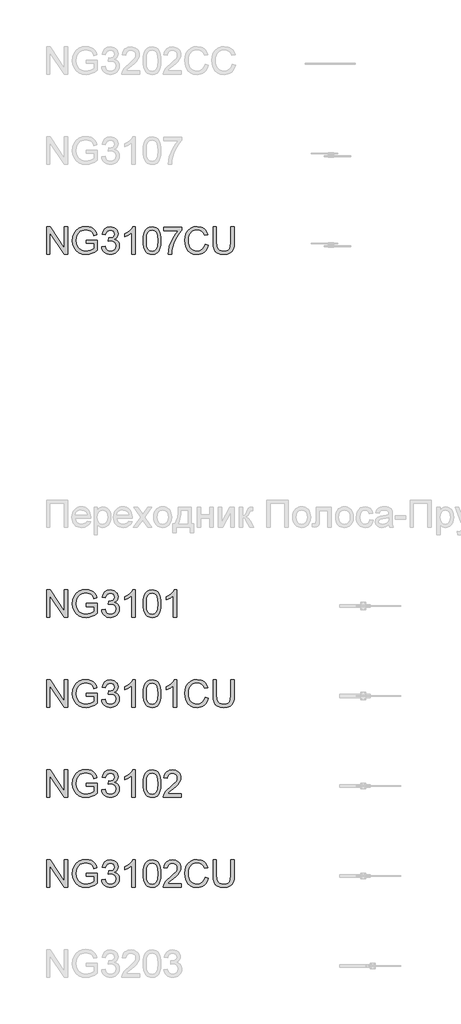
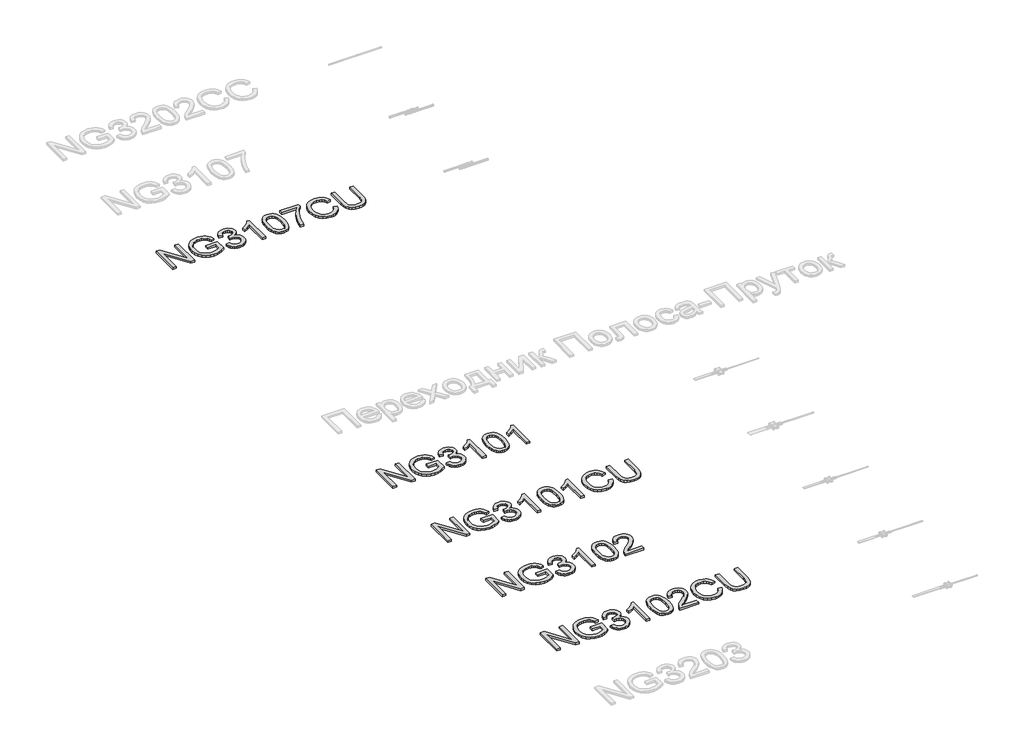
# One storey, part 108 of 124: 5 proxies.
"""IFC4 building model written with IfcOpenShell, lengths in millimetres."""

from ifc_helpers import new_model, si_unit, origin, origin_with_axes, place, context, project, spatial, polyline, outline, extrude, element, save

model = new_model("IFC4")

# Units and contexts
model_context = context("Model", 3, world=origin())
ifc_project = project(units=[si_unit("LENGTHUNIT", "METRE", prefix="MILLI")], contexts=[model_context])

# Site, building, storey
site = spatial("IfcSite", under=ifc_project)
building = spatial("IfcBuilding", under=site)
storey = spatial("IfcBuildingStorey", under=building, Name="Этаж 01", Elevation=0.0)

# Proxies
placement = place(None, origin())
element("IfcBuildingElementProxy", 1, Name="300", ObjectType="300", at=placement, inside=storey, context=model_context, shape_type="SweptSolid", body=[
    extrude(outline(polyline([(49699.8220677, -28554.4308483), (49699.8220677, -28253.0619179), (49740.1419344, -28253.0619179), (49897.5954283, -28491.8173327), (49897.5954283, -28253.0619179), (49935.2665446, -28253.0619179), (49935.2665446, -28554.4308483), (49894.9466779, -28554.4308483), (49737.493184, -28315.601857), (49737.493184, -28554.4308483), (49699.8220677, -28554.4308483)])), origin_with_axes(), (0.0, 0.0, 1.0), 20.0),
    extrude(outline(polyline([(50142.4576843, -28436.7086099), (50142.4576843, -28399.0374936), (50264.8888123, -28399.0374936), (50264.8888123, -28511.6829605), (50235.1363559, -28532.3763227), (50204.4458005, -28547.2203612), (50172.8907223, -28556.1598937), (50140.5446979, -28559.1397379), (50098.2842537, -28554.4032572), (50060.0889056, -28540.1938151), (50028.3590835, -28517.0080524), (50005.4952175, -28485.3426096), (49991.6720515, -28447.3587936), (49987.0643295, -28405.2179111), (49991.6536574, -28362.7735259), (50005.4216411, -28323.2905907), (50027.7980634, -28290.1720141), (50058.2127074, -28266.8207045), (50095.2584243, -28252.9699474), (50137.5280656, -28248.3530283), (50168.5589118, -28251.0293698), (50196.4627612, -28259.0583944), (50219.9612236, -28271.8606878), (50237.7759092, -28288.856836), (50250.9552817, -28310.8653764), (50260.5478047, -28338.7048463), (50225.8197444, -28348.4905074), (50218.0666313, -28328.6340767), (50208.6396552, -28313.6520825), (50196.1684556, -28302.3581052), (50179.282672, -28293.5657255), (50159.1503298, -28287.9095399), (50136.9394544, -28286.0241446), (50110.9393944, -28288.0566927), (50088.7101248, -28294.1543367), (50070.3344191, -28303.5537217), (50055.8950508, -28315.4914924), (50036.5076697, -28344.5173819), (50027.6785018, -28372.9546601), (50024.7354458, -28403.6728067), (50028.27631, -28439.6976511), (50038.8989026, -28469.3397428), (50056.2813269, -28492.3875498), (50080.1016861, -28508.6295399), (50107.9779443, -28518.2588511), (50137.5280656, -28521.4686215), (50163.6200961, -28519.0497974), (50189.0683331, -28511.7933251), (50211.1688439, -28501.7961319), (50227.217696, -28491.1551451), (50227.217696, -28436.7086099), (50142.4576843, -28436.7086099)])), origin_with_axes(), (0.0, 0.0, 1.0), 20.0),
    extrude(outline(polyline([(50311.9777077, -28474.3797262), (50349.648824, -28469.6708366), (50358.0825187, -28493.344043), (50370.4341567, -28509.3285157), (50387.3107432, -28518.4335951), (50409.3192836, -28521.4686215), (50435.1445997, -28517.2931609), (50455.0838038, -28504.766779), (50467.8309149, -28486.0783736), (50472.079952, -28463.4168427), (50467.8677031, -28441.904943), (50455.2309566, -28424.4581394), (50436.1010928, -28412.8974477), (50412.4094924, -28409.0438838), (50385.9955651, -28413.1641622), (50390.1894198, -28375.4930459), (50396.2226846, -28375.9345043), (50418.792245, -28373.2305716), (50438.9705724, -28365.1187736), (50453.2076056, -28351.3967752), (50457.9532834, -28331.8622412), (50454.5135867, -28315.59266), (50444.1944967, -28302.3948934), (50428.4491473, -28293.648499), (50408.7306724, -28290.7330342), (50388.9754093, -28293.6760901), (50372.8253897, -28302.505258), (50361.0347717, -28317.2205378), (50354.3577135, -28337.8219296), (50316.6865972, -28333.11304), (50327.7782394, -28299.2862906), (50347.5151084, -28274.0311916), (50374.5176468, -28258.3042363), (50407.4062972, -28253.0619179), (50431.0887007, -28255.6462889), (50452.8397236, -28263.3994019), (50471.1786411, -28275.6314783), (50484.624728, -28291.6527392), (50492.8744817, -28310.1112183), (50495.6243997, -28329.6549493), (50493.0124375, -28347.865108), (50485.176551, -28364.3830096), (50472.2271048, -28378.4544959), (50454.2744634, -28389.3254089), (50477.8556993, -28398.8535526), (50495.3300941, -28415.0771485), (50506.1458247, -28437.1132801), (50509.7510683, -28464.0790303), (50507.9484465, -28483.1904999), (50502.5405812, -28500.7936534), (50493.5274723, -28516.8884907), (50480.9091199, -28531.4750118), (50465.536251, -28543.5783295), (50448.2595928, -28552.2235563), (50429.0791453, -28557.4106925), (50407.9949084, -28559.1397379), (50388.9386211, -28557.6636113), (50371.5745909, -28553.2352318), (50355.9028179, -28545.8545993), (50341.9233021, -28535.5217138), (50330.201662, -28522.8435805), (50321.3035162, -28508.4272048), (50315.2288648, -28492.2725867), (50311.9777077, -28474.3797262)])), origin_with_axes(), (0.0, 0.0, 1.0), 20.0),
    extrude(outline(polyline([(50683.9799812, -28554.4308483), (50646.3088649, -28554.4308483), (50646.3088649, -28319.5749826), (50610.6243114, -28344.9956285), (50570.9666323, -28364.0151276), (50570.9666323, -28328.4041505), (50600.5535417, -28312.3093132), (50626.1857197, -28293.1610553), (50646.3916383, -28272.7987869), (50659.6997695, -28253.0619179), (50683.9799812, -28253.0619179), (50683.9799812, -28554.4308483)])), origin_with_axes(), (0.0, 0.0, 1.0), 20.0),
    extrude(outline(polyline([(50773.4488824, -28406.1744043), (50776.2171944, -28357.9358776), (50784.5221305, -28319.464618), (50798.2809171, -28290.1720141), (50817.4107808, -28269.4694549), (50842.0496775, -28257.1638021), (50872.3355627, -28253.0619179), (50895.5489166, -28255.489939), (50916.3342493, -28262.7740025), (50933.7166736, -28274.6289998), (50946.7213021, -28290.7698224), (50956.5437514, -28311.0585144), (50964.3796379, -28335.3571202), (50969.5115917, -28366.2132225), (50971.222243, -28406.1744043), (50968.4815222, -28454.1370194), (50960.2593596, -28492.5163085), (50946.5833464, -28521.8365035), (50927.4810738, -28542.6218363), (50902.7869949, -28555.0102625), (50872.3355627, -28559.1397379), (50851.5870182, -28557.3463131), (50833.1929184, -28551.9660389), (50817.1532634, -28542.9989153), (50803.4680532, -28530.4449422), (50790.334666, -28507.7512217), (50780.9536751, -28479.4748918), (50775.3250806, -28445.6159527), (50773.4488824, -28406.1744043)]), holes=[polyline([(50811.1199987, -28406.1008279), (50815.5345827, -28465.3574202), (50821.0528126, -28485.6254189), (50828.7783345, -28499.6532192), (50848.4968094, -28516.014771), (50872.3355627, -28521.4686215), (50896.174316, -28515.9963769), (50915.892791, -28499.5796428), (50923.6183128, -28485.5288499), (50929.1365428, -28465.2654497), (50933.5511267, -28406.1008279), (50929.2836956, -28348.1778077), (50923.9494066, -28327.9764877), (50916.4814021, -28313.6152943), (50896.7997154, -28296.4535992), (50871.8941043, -28290.7330342), (50848.3128684, -28295.7730175), (50829.3669457, -28310.8929675), (50821.3839064, -28326.5279523), (50815.6817355, -28347.6075906), (50811.1199987, -28406.1008279)])]), origin_with_axes(), (0.0, 0.0, 1.0), 20.0),
    extrude(outline(polyline([(51145.4511559, -28554.4308483), (51107.7800396, -28554.4308483), (51107.7800396, -28319.5749826), (51072.0954861, -28344.9956285), (51032.437807, -28364.0151276), (51032.437807, -28328.4041505), (51062.0247165, -28312.3093132), (51087.6568945, -28293.1610553), (51107.8628131, -28272.7987869), (51121.1709443, -28253.0619179), (51145.4511559, -28253.0619179), (51145.4511559, -28554.4308483)])), origin_with_axes(), (0.0, 0.0, 1.0), 20.0),
])
element("IfcBuildingElementProxy", 2, Name="300", ObjectType="300", at=placement, inside=storey, context=model_context, shape_type="SweptSolid", body=[
    extrude(outline(polyline([(49699.8220677, -29554.4308483), (49699.8220677, -29253.0619179), (49740.1419344, -29253.0619179), (49897.5954283, -29491.8173327), (49897.5954283, -29253.0619179), (49935.2665446, -29253.0619179), (49935.2665446, -29554.4308483), (49894.9466779, -29554.4308483), (49737.493184, -29315.601857), (49737.493184, -29554.4308483), (49699.8220677, -29554.4308483)])), origin_with_axes(), (0.0, 0.0, 1.0), 20.0),
    extrude(outline(polyline([(50142.4576843, -29436.7086099), (50142.4576843, -29399.0374936), (50264.8888123, -29399.0374936), (50264.8888123, -29511.6829605), (50235.1363559, -29532.3763227), (50204.4458005, -29547.2203612), (50172.8907223, -29556.1598937), (50140.5446979, -29559.1397379), (50098.2842537, -29554.4032572), (50060.0889056, -29540.1938151), (50028.3590835, -29517.0080524), (50005.4952175, -29485.3426096), (49991.6720515, -29447.3587936), (49987.0643295, -29405.2179111), (49991.6536574, -29362.7735259), (50005.4216411, -29323.2905907), (50027.7980634, -29290.1720141), (50058.2127074, -29266.8207045), (50095.2584243, -29252.9699474), (50137.5280656, -29248.3530283), (50168.5589118, -29251.0293698), (50196.4627612, -29259.0583944), (50219.9612236, -29271.8606878), (50237.7759092, -29288.856836), (50250.9552817, -29310.8653764), (50260.5478047, -29338.7048463), (50225.8197444, -29348.4905074), (50218.0666313, -29328.6340767), (50208.6396552, -29313.6520825), (50196.1684556, -29302.3581052), (50179.282672, -29293.5657255), (50159.1503298, -29287.9095399), (50136.9394544, -29286.0241446), (50110.9393944, -29288.0566927), (50088.7101248, -29294.1543367), (50070.3344191, -29303.5537217), (50055.8950508, -29315.4914924), (50036.5076697, -29344.5173819), (50027.6785018, -29372.9546601), (50024.7354458, -29403.6728067), (50028.27631, -29439.6976511), (50038.8989026, -29469.3397428), (50056.2813269, -29492.3875498), (50080.1016861, -29508.6295399), (50107.9779443, -29518.2588511), (50137.5280656, -29521.4686215), (50163.6200961, -29519.0497974), (50189.0683331, -29511.7933251), (50211.1688439, -29501.7961319), (50227.217696, -29491.1551451), (50227.217696, -29436.7086099), (50142.4576843, -29436.7086099)])), origin_with_axes(), (0.0, 0.0, 1.0), 20.0),
    extrude(outline(polyline([(50311.9777077, -29474.3797262), (50349.648824, -29469.6708366), (50358.0825187, -29493.344043), (50370.4341567, -29509.3285157), (50387.3107432, -29518.4335951), (50409.3192836, -29521.4686215), (50435.1445997, -29517.2931609), (50455.0838038, -29504.766779), (50467.8309149, -29486.0783736), (50472.079952, -29463.4168427), (50467.8677031, -29441.904943), (50455.2309566, -29424.4581394), (50436.1010928, -29412.8974477), (50412.4094924, -29409.0438838), (50385.9955651, -29413.1641622), (50390.1894198, -29375.4930459), (50396.2226846, -29375.9345043), (50418.792245, -29373.2305716), (50438.9705724, -29365.1187736), (50453.2076056, -29351.3967752), (50457.9532834, -29331.8622412), (50454.5135867, -29315.59266), (50444.1944967, -29302.3948934), (50428.4491473, -29293.648499), (50408.7306724, -29290.7330342), (50388.9754093, -29293.6760901), (50372.8253897, -29302.505258), (50361.0347717, -29317.2205378), (50354.3577135, -29337.8219296), (50316.6865972, -29333.11304), (50327.7782394, -29299.2862906), (50347.5151084, -29274.0311916), (50374.5176468, -29258.3042363), (50407.4062972, -29253.0619179), (50431.0887007, -29255.6462889), (50452.8397236, -29263.3994019), (50471.1786411, -29275.6314783), (50484.624728, -29291.6527392), (50492.8744817, -29310.1112183), (50495.6243997, -29329.6549493), (50493.0124375, -29347.865108), (50485.176551, -29364.3830096), (50472.2271048, -29378.4544959), (50454.2744634, -29389.3254089), (50477.8556993, -29398.8535526), (50495.3300941, -29415.0771485), (50506.1458247, -29437.1132801), (50509.7510683, -29464.0790303), (50507.9484465, -29483.1904999), (50502.5405812, -29500.7936534), (50493.5274723, -29516.8884907), (50480.9091199, -29531.4750118), (50465.536251, -29543.5783295), (50448.2595928, -29552.2235563), (50429.0791453, -29557.4106925), (50407.9949084, -29559.1397379), (50388.9386211, -29557.6636113), (50371.5745909, -29553.2352318), (50355.9028179, -29545.8545993), (50341.9233021, -29535.5217138), (50330.201662, -29522.8435805), (50321.3035162, -29508.4272048), (50315.2288648, -29492.2725867), (50311.9777077, -29474.3797262)])), origin_with_axes(), (0.0, 0.0, 1.0), 20.0),
    extrude(outline(polyline([(50683.9799812, -29554.4308483), (50646.3088649, -29554.4308483), (50646.3088649, -29319.5749826), (50610.6243114, -29344.9956285), (50570.9666323, -29364.0151276), (50570.9666323, -29328.4041505), (50600.5535417, -29312.3093132), (50626.1857197, -29293.1610553), (50646.3916383, -29272.7987869), (50659.6997695, -29253.0619179), (50683.9799812, -29253.0619179), (50683.9799812, -29554.4308483)])), origin_with_axes(), (0.0, 0.0, 1.0), 20.0),
    extrude(outline(polyline([(50773.4488824, -29406.1744043), (50776.2171944, -29357.9358776), (50784.5221305, -29319.464618), (50798.2809171, -29290.1720141), (50817.4107808, -29269.4694549), (50842.0496775, -29257.1638021), (50872.3355627, -29253.0619179), (50895.5489166, -29255.489939), (50916.3342493, -29262.7740025), (50933.7166736, -29274.6289998), (50946.7213021, -29290.7698224), (50956.5437514, -29311.0585144), (50964.3796379, -29335.3571202), (50969.5115917, -29366.2132225), (50971.222243, -29406.1744043), (50968.4815222, -29454.1370194), (50960.2593596, -29492.5163085), (50946.5833464, -29521.8365035), (50927.4810738, -29542.6218363), (50902.7869949, -29555.0102625), (50872.3355627, -29559.1397379), (50851.5870182, -29557.3463131), (50833.1929184, -29551.9660389), (50817.1532634, -29542.9989153), (50803.4680532, -29530.4449422), (50790.334666, -29507.7512217), (50780.9536751, -29479.4748918), (50775.3250806, -29445.6159527), (50773.4488824, -29406.1744043)]), holes=[polyline([(50811.1199987, -29406.1008279), (50815.5345827, -29465.3574202), (50821.0528126, -29485.6254189), (50828.7783345, -29499.6532192), (50848.4968094, -29516.014771), (50872.3355627, -29521.4686215), (50896.174316, -29515.9963769), (50915.892791, -29499.5796428), (50923.6183128, -29485.5288499), (50929.1365428, -29465.2654497), (50933.5511267, -29406.1008279), (50929.2836956, -29348.1778077), (50923.9494066, -29327.9764877), (50916.4814021, -29313.6152943), (50896.7997154, -29296.4535992), (50871.8941043, -29290.7330342), (50848.3128684, -29295.7730175), (50829.3669457, -29310.8929675), (50821.3839064, -29326.5279523), (50815.6817355, -29347.6075906), (50811.1199987, -29406.1008279)])]), origin_with_axes(), (0.0, 0.0, 1.0), 20.0),
    extrude(outline(polyline([(51145.4511559, -29554.4308483), (51107.7800396, -29554.4308483), (51107.7800396, -29319.5749826), (51072.0954861, -29344.9956285), (51032.437807, -29364.0151276), (51032.437807, -29328.4041505), (51062.0247165, -29312.3093132), (51087.6568945, -29293.1610553), (51107.8628131, -29272.7987869), (51121.1709443, -29253.0619179), (51145.4511559, -29253.0619179), (51145.4511559, -29554.4308483)])), origin_with_axes(), (0.0, 0.0, 1.0), 20.0),
    extrude(outline(polyline([(51460.946755, -29447.3036113), (51498.6178713, -29457.015696), (51491.1636624, -29480.4428813), (51481.235447, -29500.9132151), (51468.8332253, -29518.4266973), (51453.9569971, -29532.983328), (51436.9424548, -29544.4267573), (51418.1252908, -29552.6006354), (51397.5055049, -29557.5049622), (51375.0830973, -29559.1397379), (51331.3879134, -29554.191725), (51296.6874442, -29539.3476865), (51270.0895759, -29515.1226571), (51250.7021948, -29482.0316717), (51238.8655916, -29443.1281507), (51234.9200572, -29401.4655147), (51239.3806264, -29357.5220104), (51252.7623339, -29319.5749826), (51274.3662041, -29288.8292448), (51303.4932611, -29266.4896107), (51338.0373804, -29252.8871739), (51375.8924377, -29248.3530283), (51417.1963887, -29254.2207462), (51435.1651249, -29261.5553934), (51451.3450349, -29271.8238996), (51465.4694043, -29284.7549518), (51477.2715185, -29300.0772368), (51493.9089818, -29337.895506), (51456.2378655, -29346.8718266), (51443.1780546, -29319.4002386), (51425.3357779, -29300.5554834), (51402.490306, -29289.6569793), (51374.4209097, -29286.0241446), (51342.0656883, -29290.0524525), (51315.4862141, -29302.137376), (51295.3170837, -29321.0097224), (51282.1928935, -29345.4002987), (51274.9916035, -29372.9730542), (51272.5911735, -29401.3919383), (51275.4330619, -29436.1935751), (51283.9587271, -29466.2863223), (51298.4900659, -29490.5205487), (51319.3489751, -29507.7466231), (51344.3557537, -29518.0381219), (51371.330701, -29521.4686215), (51402.7754145, -29516.7965202), (51428.9778096, -29502.7802162), (51448.7606639, -29479.5668623), (51460.946755, -29447.3036113)])), origin_with_axes(), (0.0, 0.0, 1.0), 20.0),
    extrude(outline(polyline([(51748.1890168, -29253.0619179), (51785.8601331, -29253.0619179), (51785.8601331, -29426.9229488), (51783.3033533, -29467.6382886), (51775.6330137, -29498.9910316), (51761.30401, -29523.1792728), (51738.7712378, -29542.4011071), (51707.9795148, -29554.9550802), (51668.8736587, -29559.1397379), (51630.6231282, -29555.4977061), (51600.0429374, -29544.5716108), (51577.1238891, -29526.7385311), (51561.8567863, -29502.375546), (51553.2759387, -29469.6984278), (51550.4156562, -29426.9229488), (51550.4156562, -29253.0619179), (51588.0867725, -29253.0619179), (51588.0867725, -29425.5985736), (51589.9445766, -29459.4529142), (51595.5179888, -29483.0249531), (51605.6163496, -29499.3497166), (51621.0489993, -29511.4622313), (51641.1721444, -29518.967024), (51665.3419915, -29521.4686215), (51703.6569013, -29516.5206087), (51717.9997006, -29510.3355927), (51729.1327295, -29501.6765702), (51737.4698552, -29489.4996762), (51743.424945, -29472.7610454), (51748.1890168, -29425.5985736), (51748.1890168, -29253.0619179)])), origin_with_axes(), (0.0, 0.0, 1.0), 20.0),
])
element("IfcBuildingElementProxy", 3, Name="300", ObjectType="300", at=placement, inside=storey, context=model_context, shape_type="SweptSolid", body=[
    extrude(outline(polyline([(49699.8220677, -30554.4308483), (49699.8220677, -30253.0619179), (49740.1419344, -30253.0619179), (49897.5954283, -30491.8173327), (49897.5954283, -30253.0619179), (49935.2665446, -30253.0619179), (49935.2665446, -30554.4308483), (49894.9466779, -30554.4308483), (49737.493184, -30315.601857), (49737.493184, -30554.4308483), (49699.8220677, -30554.4308483)])), origin_with_axes(), (0.0, 0.0, 1.0), 20.0),
    extrude(outline(polyline([(50142.4576843, -30436.7086099), (50142.4576843, -30399.0374936), (50264.8888123, -30399.0374936), (50264.8888123, -30511.6829605), (50235.1363559, -30532.3763227), (50204.4458005, -30547.2203612), (50172.8907223, -30556.1598937), (50140.5446979, -30559.1397379), (50098.2842537, -30554.4032572), (50060.0889056, -30540.1938151), (50028.3590835, -30517.0080524), (50005.4952175, -30485.3426096), (49991.6720515, -30447.3587936), (49987.0643295, -30405.2179111), (49991.6536574, -30362.7735259), (50005.4216411, -30323.2905907), (50027.7980634, -30290.1720141), (50058.2127074, -30266.8207045), (50095.2584243, -30252.9699474), (50137.5280656, -30248.3530283), (50168.5589118, -30251.0293698), (50196.4627612, -30259.0583944), (50219.9612236, -30271.8606878), (50237.7759092, -30288.856836), (50250.9552817, -30310.8653764), (50260.5478047, -30338.7048463), (50225.8197444, -30348.4905074), (50218.0666313, -30328.6340767), (50208.6396552, -30313.6520825), (50196.1684556, -30302.3581052), (50179.282672, -30293.5657255), (50159.1503298, -30287.9095399), (50136.9394544, -30286.0241446), (50110.9393944, -30288.0566927), (50088.7101248, -30294.1543367), (50070.3344191, -30303.5537217), (50055.8950508, -30315.4914924), (50036.5076697, -30344.5173819), (50027.6785018, -30372.9546601), (50024.7354458, -30403.6728067), (50028.27631, -30439.6976511), (50038.8989026, -30469.3397428), (50056.2813269, -30492.3875498), (50080.1016861, -30508.6295399), (50107.9779443, -30518.2588511), (50137.5280656, -30521.4686215), (50163.6200961, -30519.0497974), (50189.0683331, -30511.7933251), (50211.1688439, -30501.7961319), (50227.217696, -30491.1551451), (50227.217696, -30436.7086099), (50142.4576843, -30436.7086099)])), origin_with_axes(), (0.0, 0.0, 1.0), 20.0),
    extrude(outline(polyline([(50311.9777077, -30474.3797262), (50349.648824, -30469.6708366), (50358.0825187, -30493.344043), (50370.4341567, -30509.3285157), (50387.3107432, -30518.4335951), (50409.3192836, -30521.4686215), (50435.1445997, -30517.2931609), (50455.0838038, -30504.766779), (50467.8309149, -30486.0783736), (50472.079952, -30463.4168427), (50467.8677031, -30441.904943), (50455.2309566, -30424.4581394), (50436.1010928, -30412.8974477), (50412.4094924, -30409.0438838), (50385.9955651, -30413.1641622), (50390.1894198, -30375.4930459), (50396.2226846, -30375.9345043), (50418.792245, -30373.2305716), (50438.9705724, -30365.1187736), (50453.2076056, -30351.3967752), (50457.9532834, -30331.8622412), (50454.5135867, -30315.59266), (50444.1944967, -30302.3948934), (50428.4491473, -30293.648499), (50408.7306724, -30290.7330342), (50388.9754093, -30293.6760901), (50372.8253897, -30302.505258), (50361.0347717, -30317.2205378), (50354.3577135, -30337.8219296), (50316.6865972, -30333.11304), (50327.7782394, -30299.2862906), (50347.5151084, -30274.0311916), (50374.5176468, -30258.3042363), (50407.4062972, -30253.0619179), (50431.0887007, -30255.6462889), (50452.8397236, -30263.3994019), (50471.1786411, -30275.6314783), (50484.624728, -30291.6527392), (50492.8744817, -30310.1112183), (50495.6243997, -30329.6549493), (50493.0124375, -30347.865108), (50485.176551, -30364.3830096), (50472.2271048, -30378.4544959), (50454.2744634, -30389.3254089), (50477.8556993, -30398.8535526), (50495.3300941, -30415.0771485), (50506.1458247, -30437.1132801), (50509.7510683, -30464.0790303), (50507.9484465, -30483.1904999), (50502.5405812, -30500.7936534), (50493.5274723, -30516.8884907), (50480.9091199, -30531.4750118), (50465.536251, -30543.5783295), (50448.2595928, -30552.2235563), (50429.0791453, -30557.4106925), (50407.9949084, -30559.1397379), (50388.9386211, -30557.6636113), (50371.5745909, -30553.2352318), (50355.9028179, -30545.8545993), (50341.9233021, -30535.5217138), (50330.201662, -30522.8435805), (50321.3035162, -30508.4272048), (50315.2288648, -30492.2725867), (50311.9777077, -30474.3797262)])), origin_with_axes(), (0.0, 0.0, 1.0), 20.0),
    extrude(outline(polyline([(50683.9799812, -30554.4308483), (50646.3088649, -30554.4308483), (50646.3088649, -30319.5749826), (50610.6243114, -30344.9956285), (50570.9666323, -30364.0151276), (50570.9666323, -30328.4041505), (50600.5535417, -30312.3093132), (50626.1857197, -30293.1610553), (50646.3916383, -30272.7987869), (50659.6997695, -30253.0619179), (50683.9799812, -30253.0619179), (50683.9799812, -30554.4308483)])), origin_with_axes(), (0.0, 0.0, 1.0), 20.0),
    extrude(outline(polyline([(50773.4488824, -30406.1744043), (50776.2171944, -30357.9358776), (50784.5221305, -30319.464618), (50798.2809171, -30290.1720141), (50817.4107808, -30269.4694549), (50842.0496775, -30257.1638021), (50872.3355627, -30253.0619179), (50895.5489166, -30255.489939), (50916.3342493, -30262.7740025), (50933.7166736, -30274.6289998), (50946.7213021, -30290.7698224), (50956.5437514, -30311.0585144), (50964.3796379, -30335.3571202), (50969.5115917, -30366.2132225), (50971.222243, -30406.1744043), (50968.4815222, -30454.1370194), (50960.2593596, -30492.5163085), (50946.5833464, -30521.8365035), (50927.4810738, -30542.6218363), (50902.7869949, -30555.0102625), (50872.3355627, -30559.1397379), (50851.5870182, -30557.3463131), (50833.1929184, -30551.9660389), (50817.1532634, -30542.9989153), (50803.4680532, -30530.4449422), (50790.334666, -30507.7512217), (50780.9536751, -30479.4748918), (50775.3250806, -30445.6159527), (50773.4488824, -30406.1744043)]), holes=[polyline([(50811.1199987, -30406.1008279), (50815.5345827, -30465.3574202), (50821.0528126, -30485.6254189), (50828.7783345, -30499.6532192), (50848.4968094, -30516.014771), (50872.3355627, -30521.4686215), (50896.174316, -30515.9963769), (50915.892791, -30499.5796428), (50923.6183128, -30485.5288499), (50929.1365428, -30465.2654497), (50933.5511267, -30406.1008279), (50929.2836956, -30348.1778077), (50923.9494066, -30327.9764877), (50916.4814021, -30313.6152943), (50896.7997154, -30296.4535992), (50871.8941043, -30290.7330342), (50848.3128684, -30295.7730175), (50829.3669457, -30310.8929675), (50821.3839064, -30326.5279523), (50815.6817355, -30347.6075906), (50811.1199987, -30406.1008279)])]), origin_with_axes(), (0.0, 0.0, 1.0), 20.0),
    extrude(outline(polyline([(51197.2489409, -30516.759732), (51197.2489409, -30554.4308483), (50999.4755803, -30554.4308483), (51003.5222822, -30528.4583795), (51012.8113026, -30508.1604904), (51026.4045423, -30488.4696066), (51046.0678349, -30467.8590178), (51073.5670141, -30444.8020138), (51114.2179745, -30408.6943959), (51138.6085508, -30382.0413454), (51150.803839, -30360.4098841), (51154.868935, -30339.3670339), (51151.0337652, -30320.5038846), (51139.5282558, -30304.8229146), (51121.8423289, -30294.2555043), (51099.4659065, -30290.7330342), (51075.9674441, -30294.1727308), (51057.7113001, -30304.4918208), (51045.9298792, -30320.8809637), (51041.8555861, -30342.5308191), (51004.1844698, -30337.8219296), (51013.3171403, -30301.3832179), (51021.8634989, -30286.8472806), (51033.0632064, -30274.7669556), (51046.6587454, -30265.2710016), (51062.3925985, -30258.4881773), (51100.2752469, -30253.0619179), (51120.4650707, -30254.570234), (51138.4338069, -30259.0951826), (51154.1814555, -30266.6367635), (51167.7080166, -30277.1949767), (51178.5720318, -30289.9880731), (51186.3320427, -30304.2343034), (51190.9880492, -30319.9336675), (51192.5400513, -30337.0861656), (51190.8661882, -30355.1031863), (51185.844599, -30372.8075073), (51176.9326577, -30390.815331), (51163.5877383, -30409.7428596), (51142.3149619, -30432.3400112), (51109.6194496, -30461.3567035), (51066.2829506, -30497.5930801), (51049.2868024, -30516.759732), (51197.2489409, -30516.759732)])), origin_with_axes(), (0.0, 0.0, 1.0), 20.0),
])
element("IfcBuildingElementProxy", 4, Name="300", ObjectType="300", at=placement, inside=storey, context=model_context, shape_type="SweptSolid", body=[
    extrude(outline(polyline([(49699.8220677, -31554.4308483), (49699.8220677, -31253.0619179), (49740.1419344, -31253.0619179), (49897.5954283, -31491.8173327), (49897.5954283, -31253.0619179), (49935.2665446, -31253.0619179), (49935.2665446, -31554.4308483), (49894.9466779, -31554.4308483), (49737.493184, -31315.601857), (49737.493184, -31554.4308483), (49699.8220677, -31554.4308483)])), origin_with_axes(), (0.0, 0.0, 1.0), 20.0),
    extrude(outline(polyline([(50142.4576843, -31436.7086099), (50142.4576843, -31399.0374936), (50264.8888123, -31399.0374936), (50264.8888123, -31511.6829605), (50235.1363559, -31532.3763227), (50204.4458005, -31547.2203612), (50172.8907223, -31556.1598937), (50140.5446979, -31559.1397379), (50098.2842537, -31554.4032572), (50060.0889056, -31540.1938151), (50028.3590835, -31517.0080524), (50005.4952175, -31485.3426096), (49991.6720515, -31447.3587936), (49987.0643295, -31405.2179111), (49991.6536574, -31362.7735259), (50005.4216411, -31323.2905907), (50027.7980634, -31290.1720141), (50058.2127074, -31266.8207045), (50095.2584243, -31252.9699474), (50137.5280656, -31248.3530283), (50168.5589118, -31251.0293698), (50196.4627612, -31259.0583944), (50219.9612236, -31271.8606878), (50237.7759092, -31288.856836), (50250.9552817, -31310.8653764), (50260.5478047, -31338.7048463), (50225.8197444, -31348.4905074), (50218.0666313, -31328.6340767), (50208.6396552, -31313.6520825), (50196.1684556, -31302.3581052), (50179.282672, -31293.5657255), (50159.1503298, -31287.9095399), (50136.9394544, -31286.0241446), (50110.9393944, -31288.0566927), (50088.7101248, -31294.1543367), (50070.3344191, -31303.5537217), (50055.8950508, -31315.4914924), (50036.5076697, -31344.5173819), (50027.6785018, -31372.9546601), (50024.7354458, -31403.6728067), (50028.27631, -31439.6976511), (50038.8989026, -31469.3397428), (50056.2813269, -31492.3875498), (50080.1016861, -31508.6295399), (50107.9779443, -31518.2588511), (50137.5280656, -31521.4686215), (50163.6200961, -31519.0497974), (50189.0683331, -31511.7933251), (50211.1688439, -31501.7961319), (50227.217696, -31491.1551451), (50227.217696, -31436.7086099), (50142.4576843, -31436.7086099)])), origin_with_axes(), (0.0, 0.0, 1.0), 20.0),
    extrude(outline(polyline([(50311.9777077, -31474.3797262), (50349.648824, -31469.6708366), (50358.0825187, -31493.344043), (50370.4341567, -31509.3285157), (50387.3107432, -31518.4335951), (50409.3192836, -31521.4686215), (50435.1445997, -31517.2931609), (50455.0838038, -31504.766779), (50467.8309149, -31486.0783736), (50472.079952, -31463.4168427), (50467.8677031, -31441.904943), (50455.2309566, -31424.4581394), (50436.1010928, -31412.8974477), (50412.4094924, -31409.0438838), (50385.9955651, -31413.1641622), (50390.1894198, -31375.4930459), (50396.2226846, -31375.9345043), (50418.792245, -31373.2305716), (50438.9705724, -31365.1187736), (50453.2076056, -31351.3967752), (50457.9532834, -31331.8622412), (50454.5135867, -31315.59266), (50444.1944967, -31302.3948934), (50428.4491473, -31293.648499), (50408.7306724, -31290.7330342), (50388.9754093, -31293.6760901), (50372.8253897, -31302.505258), (50361.0347717, -31317.2205378), (50354.3577135, -31337.8219296), (50316.6865972, -31333.11304), (50327.7782394, -31299.2862906), (50347.5151084, -31274.0311916), (50374.5176468, -31258.3042363), (50407.4062972, -31253.0619179), (50431.0887007, -31255.6462889), (50452.8397236, -31263.3994019), (50471.1786411, -31275.6314783), (50484.624728, -31291.6527392), (50492.8744817, -31310.1112183), (50495.6243997, -31329.6549493), (50493.0124375, -31347.865108), (50485.176551, -31364.3830096), (50472.2271048, -31378.4544959), (50454.2744634, -31389.3254089), (50477.8556993, -31398.8535526), (50495.3300941, -31415.0771485), (50506.1458247, -31437.1132801), (50509.7510683, -31464.0790303), (50507.9484465, -31483.1904999), (50502.5405812, -31500.7936534), (50493.5274723, -31516.8884907), (50480.9091199, -31531.4750118), (50465.536251, -31543.5783295), (50448.2595928, -31552.2235563), (50429.0791453, -31557.4106925), (50407.9949084, -31559.1397379), (50388.9386211, -31557.6636113), (50371.5745909, -31553.2352318), (50355.9028179, -31545.8545993), (50341.9233021, -31535.5217138), (50330.201662, -31522.8435805), (50321.3035162, -31508.4272048), (50315.2288648, -31492.2725867), (50311.9777077, -31474.3797262)])), origin_with_axes(), (0.0, 0.0, 1.0), 20.0),
    extrude(outline(polyline([(50683.9799812, -31554.4308483), (50646.3088649, -31554.4308483), (50646.3088649, -31319.5749826), (50610.6243114, -31344.9956285), (50570.9666323, -31364.0151276), (50570.9666323, -31328.4041505), (50600.5535417, -31312.3093132), (50626.1857197, -31293.1610553), (50646.3916383, -31272.7987869), (50659.6997695, -31253.0619179), (50683.9799812, -31253.0619179), (50683.9799812, -31554.4308483)])), origin_with_axes(), (0.0, 0.0, 1.0), 20.0),
    extrude(outline(polyline([(50773.4488824, -31406.1744043), (50776.2171944, -31357.9358776), (50784.5221305, -31319.464618), (50798.2809171, -31290.1720141), (50817.4107808, -31269.4694549), (50842.0496775, -31257.1638021), (50872.3355627, -31253.0619179), (50895.5489166, -31255.489939), (50916.3342493, -31262.7740025), (50933.7166736, -31274.6289998), (50946.7213021, -31290.7698224), (50956.5437514, -31311.0585144), (50964.3796379, -31335.3571202), (50969.5115917, -31366.2132225), (50971.222243, -31406.1744043), (50968.4815222, -31454.1370194), (50960.2593596, -31492.5163085), (50946.5833464, -31521.8365035), (50927.4810738, -31542.6218363), (50902.7869949, -31555.0102625), (50872.3355627, -31559.1397379), (50851.5870182, -31557.3463131), (50833.1929184, -31551.9660389), (50817.1532634, -31542.9989153), (50803.4680532, -31530.4449422), (50790.334666, -31507.7512217), (50780.9536751, -31479.4748918), (50775.3250806, -31445.6159527), (50773.4488824, -31406.1744043)]), holes=[polyline([(50811.1199987, -31406.1008279), (50815.5345827, -31465.3574202), (50821.0528126, -31485.6254189), (50828.7783345, -31499.6532192), (50848.4968094, -31516.014771), (50872.3355627, -31521.4686215), (50896.174316, -31515.9963769), (50915.892791, -31499.5796428), (50923.6183128, -31485.5288499), (50929.1365428, -31465.2654497), (50933.5511267, -31406.1008279), (50929.2836956, -31348.1778077), (50923.9494066, -31327.9764877), (50916.4814021, -31313.6152943), (50896.7997154, -31296.4535992), (50871.8941043, -31290.7330342), (50848.3128684, -31295.7730175), (50829.3669457, -31310.8929675), (50821.3839064, -31326.5279523), (50815.6817355, -31347.6075906), (50811.1199987, -31406.1008279)])]), origin_with_axes(), (0.0, 0.0, 1.0), 20.0),
    extrude(outline(polyline([(51197.2489409, -31516.759732), (51197.2489409, -31554.4308483), (50999.4755803, -31554.4308483), (51003.5222822, -31528.4583795), (51012.8113026, -31508.1604904), (51026.4045423, -31488.4696066), (51046.0678349, -31467.8590178), (51073.5670141, -31444.8020138), (51114.2179745, -31408.6943959), (51138.6085508, -31382.0413454), (51150.803839, -31360.4098841), (51154.868935, -31339.3670339), (51151.0337652, -31320.5038846), (51139.5282558, -31304.8229146), (51121.8423289, -31294.2555043), (51099.4659065, -31290.7330342), (51075.9674441, -31294.1727308), (51057.7113001, -31304.4918208), (51045.9298792, -31320.8809637), (51041.8555861, -31342.5308191), (51004.1844698, -31337.8219296), (51013.3171403, -31301.3832179), (51021.8634989, -31286.8472806), (51033.0632064, -31274.7669556), (51046.6587454, -31265.2710016), (51062.3925985, -31258.4881773), (51100.2752469, -31253.0619179), (51120.4650707, -31254.570234), (51138.4338069, -31259.0951826), (51154.1814555, -31266.6367635), (51167.7080166, -31277.1949767), (51178.5720318, -31289.9880731), (51186.3320427, -31304.2343034), (51190.9880492, -31319.9336675), (51192.5400513, -31337.0861656), (51190.8661882, -31355.1031863), (51185.844599, -31372.8075073), (51176.9326577, -31390.815331), (51163.5877383, -31409.7428596), (51142.3149619, -31432.3400112), (51109.6194496, -31461.3567035), (51066.2829506, -31497.5930801), (51049.2868024, -31516.759732), (51197.2489409, -31516.759732)])), origin_with_axes(), (0.0, 0.0, 1.0), 20.0),
    extrude(outline(polyline([(51460.946755, -31447.3036113), (51498.6178713, -31457.015696), (51491.1636624, -31480.4428813), (51481.235447, -31500.9132151), (51468.8332253, -31518.4266973), (51453.9569971, -31532.983328), (51436.9424548, -31544.4267573), (51418.1252908, -31552.6006354), (51397.5055049, -31557.5049622), (51375.0830973, -31559.1397379), (51331.3879134, -31554.191725), (51296.6874442, -31539.3476865), (51270.0895759, -31515.1226571), (51250.7021948, -31482.0316717), (51238.8655916, -31443.1281507), (51234.9200572, -31401.4655147), (51239.3806264, -31357.5220104), (51252.7623339, -31319.5749826), (51274.3662041, -31288.8292448), (51303.4932611, -31266.4896107), (51338.0373804, -31252.8871739), (51375.8924377, -31248.3530283), (51417.1963887, -31254.2207462), (51435.1651249, -31261.5553934), (51451.3450349, -31271.8238996), (51465.4694043, -31284.7549518), (51477.2715185, -31300.0772368), (51493.9089818, -31337.895506), (51456.2378655, -31346.8718266), (51443.1780546, -31319.4002386), (51425.3357779, -31300.5554834), (51402.490306, -31289.6569793), (51374.4209097, -31286.0241446), (51342.0656883, -31290.0524525), (51315.4862141, -31302.137376), (51295.3170837, -31321.0097224), (51282.1928935, -31345.4002987), (51274.9916035, -31372.9730542), (51272.5911735, -31401.3919383), (51275.4330619, -31436.1935751), (51283.9587271, -31466.2863223), (51298.4900659, -31490.5205487), (51319.3489751, -31507.7466231), (51344.3557537, -31518.0381219), (51371.330701, -31521.4686215), (51402.7754145, -31516.7965202), (51428.9778096, -31502.7802162), (51448.7606639, -31479.5668623), (51460.946755, -31447.3036113)])), origin_with_axes(), (0.0, 0.0, 1.0), 20.0),
    extrude(outline(polyline([(51748.1890168, -31253.0619179), (51785.8601331, -31253.0619179), (51785.8601331, -31426.9229488), (51783.3033533, -31467.6382886), (51775.6330137, -31498.9910316), (51761.30401, -31523.1792728), (51738.7712378, -31542.4011071), (51707.9795148, -31554.9550802), (51668.8736587, -31559.1397379), (51630.6231282, -31555.4977061), (51600.0429374, -31544.5716108), (51577.1238891, -31526.7385311), (51561.8567863, -31502.375546), (51553.2759387, -31469.6984278), (51550.4156562, -31426.9229488), (51550.4156562, -31253.0619179), (51588.0867725, -31253.0619179), (51588.0867725, -31425.5985736), (51589.9445766, -31459.4529142), (51595.5179888, -31483.0249531), (51605.6163496, -31499.3497166), (51621.0489993, -31511.4622313), (51641.1721444, -31518.967024), (51665.3419915, -31521.4686215), (51703.6569013, -31516.5206087), (51717.9997006, -31510.3355927), (51729.1327295, -31501.6765702), (51737.4698552, -31489.4996762), (51743.424945, -31472.7610454), (51748.1890168, -31425.5985736), (51748.1890168, -31253.0619179)])), origin_with_axes(), (0.0, 0.0, 1.0), 20.0),
])
element("IfcBuildingElementProxy", 5, Name="300", ObjectType="300", at=placement, inside=storey, context=model_context, shape_type="SweptSolid", body=[
    extrude(outline(polyline([(49699.8220677, -24519.5141033), (49699.8220677, -24218.1451728), (49740.1419344, -24218.1451728), (49897.5954283, -24456.9005877), (49897.5954283, -24218.1451728), (49935.2665446, -24218.1451728), (49935.2665446, -24519.5141033), (49894.9466779, -24519.5141033), (49737.493184, -24280.685112), (49737.493184, -24519.5141033), (49699.8220677, -24519.5141033)])), origin_with_axes(), (0.0, 0.0, 1.0), 20.0),
    extrude(outline(polyline([(50142.4576843, -24401.7918648), (50142.4576843, -24364.1207485), (50264.8888123, -24364.1207485), (50264.8888123, -24476.7662154), (50235.1363559, -24497.4595776), (50204.4458005, -24512.3036162), (50172.8907223, -24521.2431486), (50140.5446979, -24524.2229928), (50098.2842537, -24519.4865121), (50060.0889056, -24505.27707), (50028.3590835, -24482.0913073), (50005.4952175, -24450.4258646), (49991.6720515, -24412.4420486), (49987.0643295, -24370.301166), (49991.6536574, -24327.8567808), (50005.4216411, -24288.3738457), (50027.7980634, -24255.2552691), (50058.2127074, -24231.9039594), (50095.2584243, -24218.0532023), (50137.5280656, -24213.4362833), (50168.5589118, -24216.1126248), (50196.4627612, -24224.1416493), (50219.9612236, -24236.9439428), (50237.7759092, -24253.9400909), (50250.9552817, -24275.9486313), (50260.5478047, -24303.7881013), (50225.8197444, -24313.5737624), (50218.0666313, -24293.7173317), (50208.6396552, -24278.7353374), (50196.1684556, -24267.4413602), (50179.282672, -24258.6489805), (50159.1503298, -24252.9927948), (50136.9394544, -24251.1073996), (50110.9393944, -24253.1399476), (50088.7101248, -24259.2375917), (50070.3344191, -24268.6369766), (50055.8950508, -24280.5747474), (50036.5076697, -24309.6006368), (50027.6785018, -24338.037915), (50024.7354458, -24368.7560616), (50028.27631, -24404.780906), (50038.8989026, -24434.4229978), (50056.2813269, -24457.4708048), (50080.1016861, -24473.7127949), (50107.9779443, -24483.3421061), (50137.5280656, -24486.5518765), (50163.6200961, -24484.1330524), (50189.0683331, -24476.87658), (50211.1688439, -24466.8793868), (50227.217696, -24456.2384001), (50227.217696, -24401.7918648), (50142.4576843, -24401.7918648)])), origin_with_axes(), (0.0, 0.0, 1.0), 20.0),
    extrude(outline(polyline([(50311.9777077, -24439.4629811), (50349.648824, -24434.7540916), (50358.0825187, -24458.427298), (50370.4341567, -24474.4117707), (50387.3107432, -24483.51685), (50409.3192836, -24486.5518765), (50435.1445997, -24482.3764158), (50455.0838038, -24469.8500339), (50467.8309149, -24451.1616286), (50472.079952, -24428.5000977), (50467.8677031, -24406.988198), (50455.2309566, -24389.5413944), (50436.1010928, -24377.9807027), (50412.4094924, -24374.1271388), (50385.9955651, -24378.2474171), (50390.1894198, -24340.5763008), (50396.2226846, -24341.0177592), (50418.792245, -24338.3138265), (50438.9705724, -24330.2020285), (50453.2076056, -24316.4800301), (50457.9532834, -24296.9454962), (50454.5135867, -24280.6759149), (50444.1944967, -24267.4781484), (50428.4491473, -24258.7317539), (50408.7306724, -24255.8162891), (50388.9754093, -24258.7593451), (50372.8253897, -24267.588513), (50361.0347717, -24282.3037928), (50354.3577135, -24302.9051845), (50316.6865972, -24298.196295), (50327.7782394, -24264.3695455), (50347.5151084, -24239.1144465), (50374.5176468, -24223.3874912), (50407.4062972, -24218.1451728), (50431.0887007, -24220.7295438), (50452.8397236, -24228.4826569), (50471.1786411, -24240.7147332), (50484.624728, -24256.7359941), (50492.8744817, -24275.1944732), (50495.6243997, -24294.7382042), (50493.0124375, -24312.948363), (50485.176551, -24329.4662646), (50472.2271048, -24343.5377509), (50454.2744634, -24354.4086638), (50477.8556993, -24363.9368075), (50495.3300941, -24380.1604035), (50506.1458247, -24402.196535), (50509.7510683, -24429.1622852), (50507.9484465, -24448.2737549), (50502.5405812, -24465.8769084), (50493.5274723, -24481.9717457), (50480.9091199, -24496.5582668), (50465.536251, -24508.6615844), (50448.2595928, -24517.3068113), (50429.0791453, -24522.4939474), (50407.9949084, -24524.2229928), (50388.9386211, -24522.7468663), (50371.5745909, -24518.3184868), (50355.9028179, -24510.9378542), (50341.9233021, -24500.6049687), (50330.201662, -24487.9268354), (50321.3035162, -24473.5104598), (50315.2288648, -24457.3558417), (50311.9777077, -24439.4629811)])), origin_with_axes(), (0.0, 0.0, 1.0), 20.0),
    extrude(outline(polyline([(50683.9799812, -24519.5141033), (50646.3088649, -24519.5141033), (50646.3088649, -24284.6582375), (50610.6243114, -24310.0788834), (50570.9666323, -24329.0983826), (50570.9666323, -24293.4874054), (50600.5535417, -24277.3925681), (50626.1857197, -24258.2443103), (50646.3916383, -24237.8820419), (50659.6997695, -24218.1451728), (50683.9799812, -24218.1451728), (50683.9799812, -24519.5141033)])), origin_with_axes(), (0.0, 0.0, 1.0), 20.0),
    extrude(outline(polyline([(50773.4488824, -24371.2576592), (50776.2171944, -24323.0191326), (50784.5221305, -24284.5478729), (50798.2809171, -24255.2552691), (50817.4107808, -24234.5527098), (50842.0496775, -24222.2470571), (50872.3355627, -24218.1451728), (50895.5489166, -24220.573194), (50916.3342493, -24227.8572575), (50933.7166736, -24239.7122548), (50946.7213021, -24255.8530773), (50956.5437514, -24276.1417694), (50964.3796379, -24300.4403751), (50969.5115917, -24331.2964775), (50971.222243, -24371.2576592), (50968.4815222, -24419.2202743), (50960.2593596, -24457.5995635), (50946.5833464, -24486.9197585), (50927.4810738, -24507.7050912), (50902.7869949, -24520.0935174), (50872.3355627, -24524.2229928), (50851.5870182, -24522.4295681), (50833.1929184, -24517.0492939), (50817.1532634, -24508.0821703), (50803.4680532, -24495.5281972), (50790.334666, -24472.8344766), (50780.9536751, -24444.5581467), (50775.3250806, -24410.6992076), (50773.4488824, -24371.2576592)]), holes=[polyline([(50811.1199987, -24371.1840828), (50815.5345827, -24430.4406752), (50821.0528126, -24450.7086739), (50828.7783345, -24464.7364742), (50848.4968094, -24481.0980259), (50872.3355627, -24486.5518765), (50896.174316, -24481.0796318), (50915.892791, -24464.6628978), (50923.6183128, -24450.6121048), (50929.1365428, -24430.3487047), (50933.5511267, -24371.1840828), (50929.2836956, -24313.2610627), (50923.9494066, -24293.0597426), (50916.4814021, -24278.6985492), (50896.7997154, -24261.5368541), (50871.8941043, -24255.8162891), (50848.3128684, -24260.8562725), (50829.3669457, -24275.9762225), (50821.3839064, -24291.6112072), (50815.6817355, -24312.6908456), (50811.1199987, -24371.1840828)])]), origin_with_axes(), (0.0, 0.0, 1.0), 20.0),
    extrude(outline(polyline([(51004.1844698, -24260.5251787), (51004.1844698, -24222.8540624), (51201.9578304, -24222.8540624), (51201.9578304, -24253.3146916), (51173.7688725, -24288.990048), (51145.8558261, -24334.3590951), (51121.2353236, -24385.2831603), (51102.9239973, -24437.6235711), (51093.9476766, -24476.7846095), (51088.9444815, -24519.5141033), (51051.2733652, -24519.5141033), (51055.3476583, -24480.6841587), (51066.2461624, -24434.5333624), (51083.6745719, -24385.6142541), (51107.3385812, -24338.4793734), (51134.9665191, -24295.8694413), (51164.2867141, -24260.5251787), (51004.1844698, -24260.5251787)])), origin_with_axes(), (0.0, 0.0, 1.0), 20.0),
    extrude(outline(polyline([(51460.946755, -24412.3868663), (51498.6178713, -24422.0989509), (51491.1636624, -24445.5261362), (51481.235447, -24465.99647), (51468.8332253, -24483.5099522), (51453.9569971, -24498.0665829), (51436.9424548, -24509.5100123), (51418.1252908, -24517.6838903), (51397.5055049, -24522.5882172), (51375.0830973, -24524.2229928), (51331.3879134, -24519.27498), (51296.6874442, -24504.4309415), (51270.0895759, -24480.2059121), (51250.7021948, -24447.1149266), (51238.8655916, -24408.2114056), (51234.9200572, -24366.5487697), (51239.3806264, -24322.6052653), (51252.7623339, -24284.6582375), (51274.3662041, -24253.9124998), (51303.4932611, -24231.5728656), (51338.0373804, -24217.9704289), (51375.8924377, -24213.4362833), (51417.1963887, -24219.3040011), (51435.1651249, -24226.6386484), (51451.3450349, -24236.9071546), (51465.4694043, -24249.8382067), (51477.2715185, -24265.1604918), (51493.9089818, -24302.9787609), (51456.2378655, -24311.9550816), (51443.1780546, -24284.4834936), (51425.3357779, -24265.6387384), (51402.490306, -24254.7402343), (51374.4209097, -24251.1073996), (51342.0656883, -24255.1357074), (51315.4862141, -24267.220631), (51295.3170837, -24286.0929773), (51282.1928935, -24310.4835536), (51274.9916035, -24338.0563091), (51272.5911735, -24366.4751933), (51275.4330619, -24401.27683), (51283.9587271, -24431.3695772), (51298.4900659, -24455.6038036), (51319.3489751, -24472.8298781), (51344.3557537, -24483.1213769), (51371.330701, -24486.5518765), (51402.7754145, -24481.8797752), (51428.9778096, -24467.8634711), (51448.7606639, -24444.6501172), (51460.946755, -24412.3868663)])), origin_with_axes(), (0.0, 0.0, 1.0), 20.0),
    extrude(outline(polyline([(51748.1890168, -24218.1451728), (51785.8601331, -24218.1451728), (51785.8601331, -24392.0062037), (51783.3033533, -24432.7215435), (51775.6330137, -24464.0742866), (51761.30401, -24488.2625278), (51738.7712378, -24507.484362), (51707.9795148, -24520.0383351), (51668.8736587, -24524.2229928), (51630.6231282, -24520.580961), (51600.0429374, -24509.6548658), (51577.1238891, -24491.8217861), (51561.8567863, -24467.4588009), (51553.2759387, -24434.7816827), (51550.4156562, -24392.0062037), (51550.4156562, -24218.1451728), (51588.0867725, -24218.1451728), (51588.0867725, -24390.6818285), (51589.9445766, -24424.5361692), (51595.5179888, -24448.108208), (51605.6163496, -24464.4329715), (51621.0489993, -24476.5454862), (51641.1721444, -24484.0502789), (51665.3419915, -24486.5518765), (51703.6569013, -24481.6038637), (51717.9997006, -24475.4188476), (51729.1327295, -24466.7598252), (51737.4698552, -24454.5829311), (51743.424945, -24437.8443003), (51748.1890168, -24390.6818285), (51748.1890168, -24218.1451728)])), origin_with_axes(), (0.0, 0.0, 1.0), 20.0),
])

save(model, "model.ifc")
